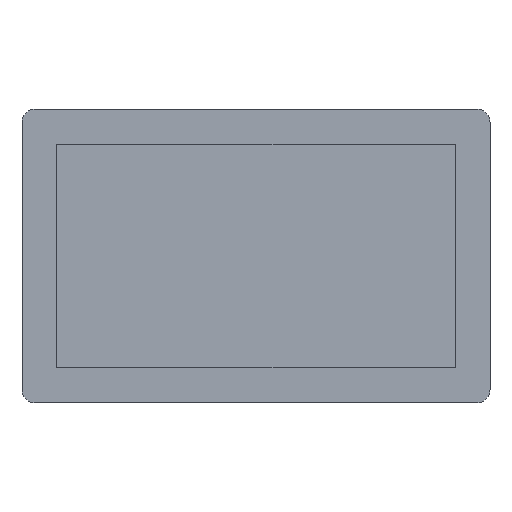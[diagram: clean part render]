
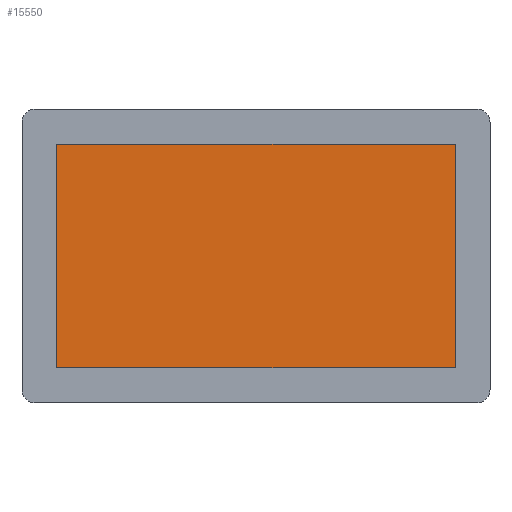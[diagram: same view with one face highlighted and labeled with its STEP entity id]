
A CAD part, top view. The second image highlights one B-rep face of the part: STEP entity #15550.
In plain terms, the highlighted planar face has unit normal (0, 0, 1).
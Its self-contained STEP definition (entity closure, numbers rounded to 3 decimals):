
#5270=DIRECTION('',(0.,-1.,0.));
#5271=VECTOR('',#5270,173.99);
#5272=CARTESIAN_POINT('',(-154.655,86.995,3.29));
#5273=LINE('',#5272,#5271);
#5274=DIRECTION('',(-1.,0.,0.));
#5275=VECTOR('',#5274,309.31);
#5276=CARTESIAN_POINT('',(154.655,86.995,3.29));
#5277=LINE('',#5276,#5275);
#5278=DIRECTION('',(0.,1.,0.));
#5279=VECTOR('',#5278,173.99);
#5280=CARTESIAN_POINT('',(154.655,-86.995,3.29));
#5281=LINE('',#5280,#5279);
#5282=DIRECTION('',(1.,0.,0.));
#5283=VECTOR('',#5282,309.31);
#5284=CARTESIAN_POINT('',(-154.655,-86.995,3.29));
#5285=LINE('',#5284,#5283);
#9108=CARTESIAN_POINT('',(-154.655,86.995,3.29));
#9109=CARTESIAN_POINT('',(-154.655,-86.995,3.29));
#9110=VERTEX_POINT('',#9108);
#9111=VERTEX_POINT('',#9109);
#9112=CARTESIAN_POINT('',(154.655,-86.995,3.29));
#9113=VERTEX_POINT('',#9112);
#9114=CARTESIAN_POINT('',(154.655,86.995,3.29));
#9115=VERTEX_POINT('',#9114);
#15539=CARTESIAN_POINT('',(0.,0.,3.29));
#15540=DIRECTION('',(0.,0.,1.));
#15541=DIRECTION('',(1.,0.,0.));
#15542=AXIS2_PLACEMENT_3D('',#15539,#15540,#15541);
#15543=PLANE('',#15542);
#15544=ORIENTED_EDGE('',*,*,#15491,.F.);
#15545=ORIENTED_EDGE('',*,*,#15506,.F.);
#15546=ORIENTED_EDGE('',*,*,#15520,.F.);
#15547=ORIENTED_EDGE('',*,*,#15533,.F.);
#15548=EDGE_LOOP('',(#15544,#15545,#15546,#15547));
#15549=FACE_OUTER_BOUND('',#15548,.F.);
#15491=EDGE_CURVE('',#9110,#9111,#5273,.T.);
#15506=EDGE_CURVE('',#9115,#9110,#5277,.T.);
#15520=EDGE_CURVE('',#9113,#9115,#5281,.T.);
#15533=EDGE_CURVE('',#9111,#9113,#5285,.T.);
#15550=ADVANCED_FACE('',(#15549),#15543,.T.);
